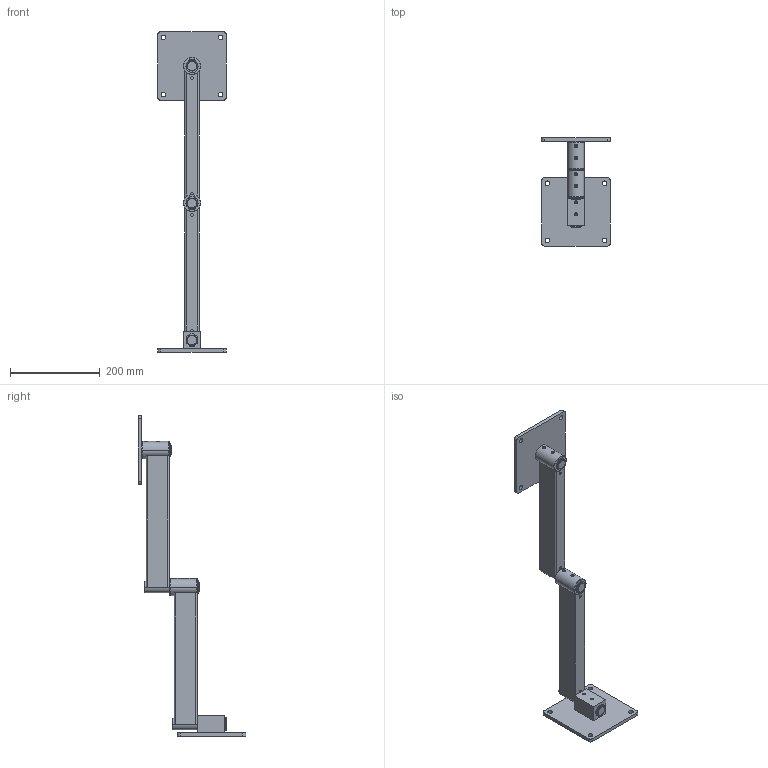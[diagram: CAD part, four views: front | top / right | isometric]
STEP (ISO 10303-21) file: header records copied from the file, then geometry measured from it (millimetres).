
FILE_DESCRIPTION (( 'STEP AP214' ), '1' );
FILE_NAME ('70-0300-00 REV AA, 24in RIGID SYSTEM, WALL MOUNT, PIVOT PLATE - EXTENDED.STEP', '2025-07-13T21:56:14', ( '' ), ( '' ), 'SwSTEP 2.0', 'SolidWorks 2025', '' );
FILE_SCHEMA (( 'AUTOMOTIVE_DESIGN' ));
Length unit declared in the file: inch
Products named in the file (15): 71-1012-RX REV AA, HOUSING, 12in RIGID_MACHINE; 11-0017-99 REV AA, PLATE, 6X6_Laser; 70-0016-00 REV AA, HD WALL MOUNT; 71-2113-RX REV AA, HOUSING, BEARING, TALL, 1.5OD_MACHINE; 010-012-00, RETAINING RING, EXTERNAL, .875in SHAFT; 70-0300-00 REV AA, 24in RIGID SYSTEM, WALL MOUNT, PIVOT PLATE - EXTENDED; 71-0122-RX REV AA, PLATE, PIVOT PLATE; 016-008-00, OILITE PLUS BEARING, 0.876 id x 1.002 od x 1.25 lg; 71-0018-RX REV AA, BLOCK, WALL MOUNT; 70-1012-00 REV AA, 12in RIGID SECTION; 007-036-00, SHSS, 1''4-28, .25L_007-036-00; 71-0193-RX REV AA, PIN, PIVOT PLATE; 016-007-00, OILITE PLUS BEARING, 0.876 id x 1.002 od x 0.75 lg; 71-0022-RX REV AA, PIN, RIGID SECTION; 70-0106-00 REV AA, PIVOT PLATE
Assembly tree (19 placements, depth 3):
  70-0300-00 REV AA, 24in RIGID SYSTEM, WALL MOUNT, PIVOT PLATE - EXTENDED
    70-0016-00 REV AA, HD WALL MOUNT
      11-0017-99 REV AA, PLATE, 6X6_Laser
      71-0018-RX REV AA, BLOCK, WALL MOUNT
      016-007-00, OILITE PLUS BEARING, 0.876 id x 1.002 od x 0.75 lg
      016-008-00, OILITE PLUS BEARING, 0.876 id x 1.002 od x 1.25 lg
      007-036-00, SHSS, 1''4-28, .25L_007-036-00
    70-1012-00 REV AA, 12in RIGID SECTION  x2
      71-1012-RX REV AA, HOUSING, 12in RIGID_MACHINE
      71-0022-RX REV AA, PIN, RIGID SECTION
      71-2113-RX REV AA, HOUSING, BEARING, TALL, 1.5OD_MACHINE
      016-007-00, OILITE PLUS BEARING, 0.876 id x 1.002 od x 0.75 lg
      016-008-00, OILITE PLUS BEARING, 0.876 id x 1.002 od x 1.25 lg
      007-036-00, SHSS, 1''4-28, .25L_007-036-00
      010-012-00, RETAINING RING, EXTERNAL, .875in SHAFT
    70-0106-00 REV AA, PIVOT PLATE
      71-0193-RX REV AA, PIN, PIVOT PLATE
      71-0122-RX REV AA, PLATE, PIVOT PLATE
      010-012-00, RETAINING RING, EXTERNAL, .875in SHAFT
Bounding box: 152.4 x 239.46 x 712.79 mm (x, y, z)
Volume: 831364.7 mm3; surface area: 376008.9 mm2
Topology: 22 solids, 22 shells, 523 faces, 1239 edges, 756 vertices
Faces by surface type: cylinder 228, plane 130, cone 86, torus 70, bspline 9
Entity records: 9509 total; most frequent: CARTESIAN_POINT 2979, DIRECTION 1377, ORIENTED_EDGE 1194, EDGE_CURVE 597, AXIS2_PLACEMENT_3D 566, VERTEX_POINT 370, EDGE_LOOP 301, CIRCLE 291
